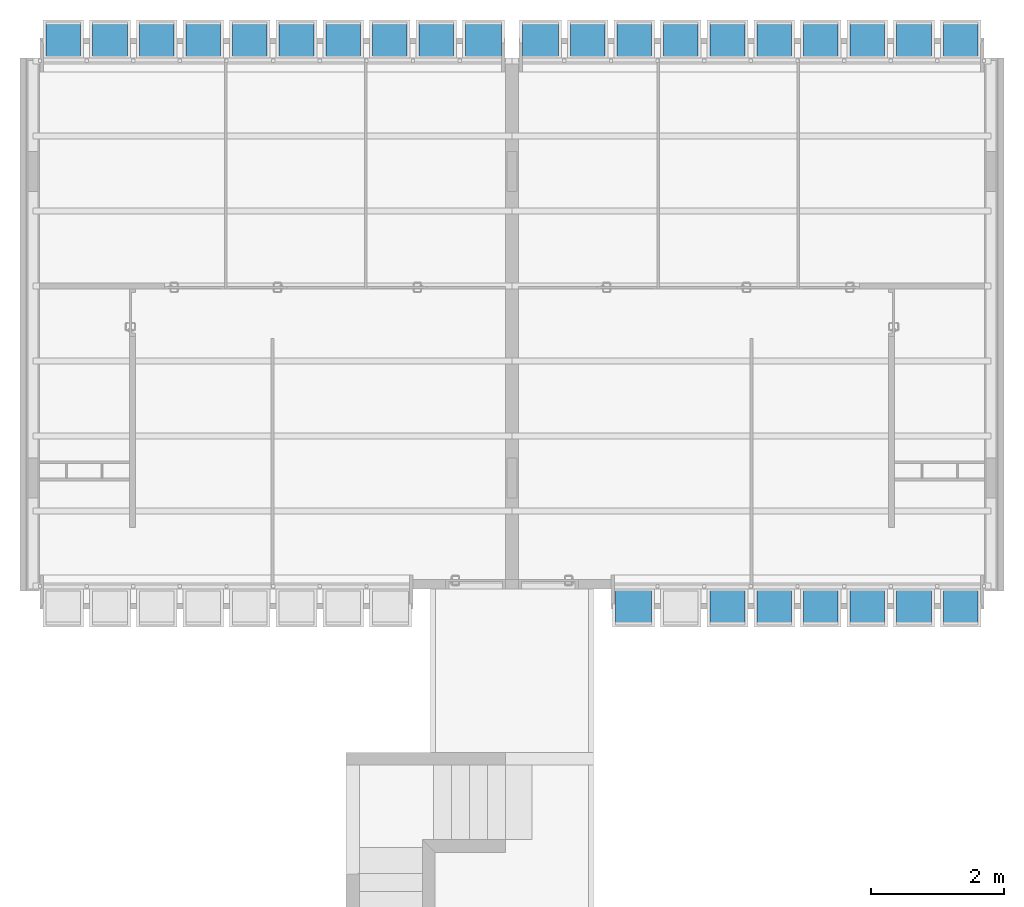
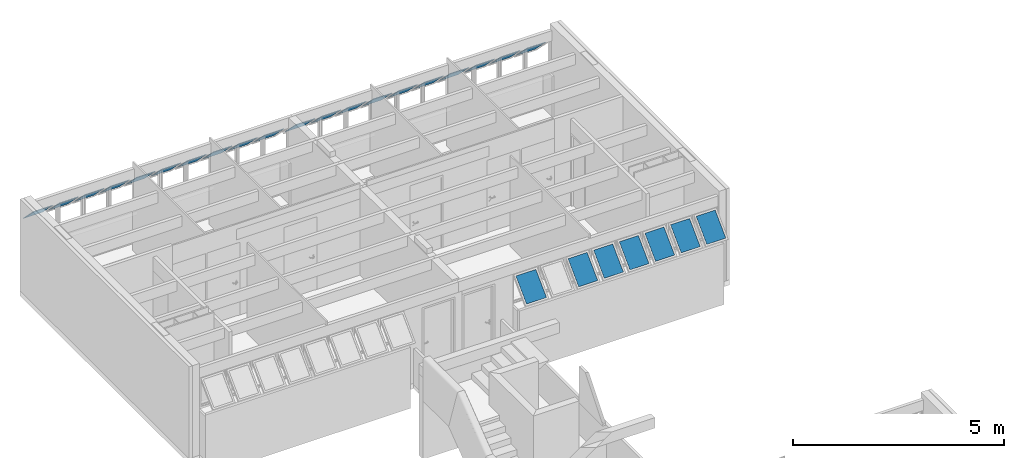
# One storey, part 37 of 38: 27 building element parts, 30 elements without a shape of their own.
"""IFC2X3 building model written with IfcOpenShell, lengths in millimetres."""

import ifcopenshell
import ifcopenshell.guid

model = None  # the IFC model being written
_history = None  # IfcOwnerHistory: only IFC2X3 demands one
_inside = {}  # id of a spatial element -> (the spatial element, [elements in it])
_under = {}  # id of a project, library or spatial element -> (it, [spatial elements below it])
_declared = {}  # id of a project -> (the project, [libraries it declares])
_typed = {}  # id of a type object -> (the type object, [elements of that type])
_made_of = {}  # id of a material, layer set ... -> (it, [elements and type objects made of it])


def new_model(schema):
    """Start an empty IFC model of exactly this schema.

    Asked for "IFC4X3", IfcOpenShell would pick the latest addendum, in which some entities
    have other attributes; the version numbers below select the first issue.
    IFC2X3 requires an IfcOwnerHistory on every rooted entity: one is made here for all.
    """
    global model, _history
    if schema == "IFC4X3":
        model = ifcopenshell.file(schema_version=(4, 3, 0, 0))
    else:
        model = ifcopenshell.file(schema=schema)
    _inside.clear()
    _under.clear()
    _declared.clear()
    _typed.clear()
    _made_of.clear()
    _history = None
    if model.schema == "IFC2X3":
        org = make("IfcOrganization", Name="unknown")
        user = make(
            "IfcPersonAndOrganization",
            ThePerson=make("IfcPerson", FamilyName="unknown"),
            TheOrganization=org,
        )
        app = make(
            "IfcApplication",
            ApplicationDeveloper=org,
            Version="unknown",
            ApplicationFullName="unknown",
            ApplicationIdentifier="unknown",
        )
        _history = make(
            "IfcOwnerHistory",
            OwningUser=user,
            OwningApplication=app,
            ChangeAction="ADDED",
            CreationDate=0,
        )
    return model


def make(cls, **values):
    """One entity of the class cls with the attributes given. An attribute that is None is left unset."""
    return model.create_entity(
        cls, **{name: value for name, value in values.items() if value is not None}
    )


def entity(cls, *values):
    """Any entity or typed value of the class cls, its attributes in the order of the schema. None: left unset."""
    e = model.create_entity(cls)
    for i, value in enumerate(values):
        if value is not None:
            e[i] = value
    return e


def rooted(cls, **values):
    """An entity with a GlobalId (a new one), such as an element, a storey or a relation."""
    return make(cls, GlobalId=ifcopenshell.guid.new(), OwnerHistory=_history, **values)


def si_unit(unit_type, name, prefix=None):
    """IfcSIUnit, for example si_unit("LENGTHUNIT", "METRE", prefix="MILLI")."""
    return make("IfcSIUnit", UnitType=unit_type, Prefix=prefix, Name=name)


def converted_unit(unit_type, name, factor, base, dimensions=None, offset=None):
    """IfcConversionBasedUnit, such as the inch: factor (a typed value) times the base unit."""
    return make(
        "IfcConversionBasedUnit"
        if offset is None
        else "IfcConversionBasedUnitWithOffset",
        ConversionOffset=offset,
        Dimensions=None
        if dimensions is None
        else entity("IfcDimensionalExponents", *dimensions),
        UnitType=unit_type,
        Name=name,
        ConversionFactor=make(
            "IfcMeasureWithUnit", ValueComponent=factor, UnitComponent=base
        ),
    )


def derived_unit(unit_type, elements):
    """IfcDerivedUnit: a product of units, each with its exponent."""
    return make(
        "IfcDerivedUnit",
        Elements=[
            make("IfcDerivedUnitElement", Unit=unit, Exponent=power)
            for unit, power in elements
        ],
        UnitType=unit_type,
    )


def money_unit(currency):
    """IfcMonetaryUnit."""
    return make("IfcMonetaryUnit", Currency=currency)


def assignment(units):
    """IfcUnitAssignment: the units of a project."""
    return None if units is None else make("IfcUnitAssignment", Units=units)


def point(xyz):
    """IfcCartesianPoint."""
    return None if xyz is None else make("IfcCartesianPoint", Coordinates=xyz)


def direction(xyz):
    """IfcDirection."""
    return None if xyz is None else make("IfcDirection", DirectionRatios=xyz)


def frame(location, z_axis=None, x_axis=None):
    """IfcAxis2Placement3D, a coordinate frame: its origin and axes. An axis left out is left unset."""
    return make(
        "IfcAxis2Placement3D",
        Location=point(location),
        Axis=direction(z_axis),
        RefDirection=direction(x_axis),
    )


def origin_with_axes():
    """The frame at (0, 0, 0) with the z axis (0, 0, 1) and the x axis (1, 0, 0) written out."""
    return frame((0.0, 0.0, 0.0), z_axis=(0.0, 0.0, 1.0), x_axis=(1.0, 0.0, 0.0))


def place(relative_to, where):
    """IfcLocalPlacement: puts the frame where relative to a parent placement (None: the world)."""
    return make(
        "IfcLocalPlacement", PlacementRelTo=relative_to, RelativePlacement=where
    )


def context(
    kind, dimensions, precision=None, world=None, true_north=None, identifier=None
):
    """IfcGeometricRepresentationContext, for example the 3D "Model" context."""
    return make(
        "IfcGeometricRepresentationContext",
        ContextIdentifier=identifier,
        ContextType=kind,
        CoordinateSpaceDimension=dimensions,
        Precision=precision,
        WorldCoordinateSystem=world,
        TrueNorth=true_north,
    )


def subcontext(parent, identifier, kind, view, scale=None):
    """IfcGeometricRepresentationSubContext, for example "Body" below "Model"."""
    return make(
        "IfcGeometricRepresentationSubContext",
        ContextIdentifier=identifier,
        ContextType=kind,
        ParentContext=parent,
        TargetScale=scale,
        TargetView=view,
    )


def project(units=None, contexts=None):
    """IfcProject with its units and contexts."""
    return rooted(
        "IfcProject",
        Name="project",
        RepresentationContexts=contexts,
        UnitsInContext=assignment(units),
    )


def spatial(cls, under=None, at=None, **own):
    """A site, building, storey or space (cls), placed at a placement, below another one or the project."""
    s = rooted(cls, ObjectPlacement=at, **own)
    if under is not None:
        _under.setdefault(under.id(), (under, []))[1].append(s)
    return s


def faces_of(points, faces, orient=None, outer=None):
    """IfcFace entities. A face is a list of loops; a loop is a list of indices into points, from 0.

    orient and outer hold one flag for each loop. By default every Orientation is true, the
    first loop of a face is its IfcFaceOuterBound and the others are IfcFaceBound.
    """
    made = []
    for i, loops in enumerate(faces):
        bounds = []
        for j, loop in enumerate(loops):
            is_outer = j == 0 if outer is None else outer[i][j]
            bounds.append(
                make(
                    "IfcFaceOuterBound" if is_outer else "IfcFaceBound",
                    Bound=make("IfcPolyLoop", Polygon=[points[k] for k in loop]),
                    Orientation=True if orient is None else orient[i][j],
                )
            )
        made.append(make("IfcFace", Bounds=bounds))
    return made


def faceted_brep(points, faces, orient=None, outer=None, voids=None):
    """IfcFacetedBrep: a solid bounded by flat faces; with voids (closed shells), ...WithVoids."""
    shared = [point(p) for p in points]
    hull = make("IfcClosedShell", CfsFaces=faces_of(shared, faces, orient, outer))
    if voids is None:
        return make("IfcFacetedBrep", Outer=hull)
    return make(
        "IfcFacetedBrepWithVoids",
        Outer=hull,
        Voids=[
            make(cls, CfsFaces=faces_of(shared, fs, o, b)) for cls, fs, o, b in voids
        ],
    )


def shape(context_of_items, identifier, shape_type, items):
    """IfcShapeRepresentation: the items that make up one representation, for example the "Body"."""
    return make(
        "IfcShapeRepresentation",
        ContextOfItems=context_of_items,
        RepresentationIdentifier=identifier,
        RepresentationType=shape_type,
        Items=items,
    )


def source(mapping_origin, context_of_items, identifier, shape_type, items):
    """IfcRepresentationMap: a shape defined once, which mapped items show again and again."""
    return make(
        "IfcRepresentationMap",
        MappingOrigin=mapping_origin,
        MappedRepresentation=shape(context_of_items, identifier, shape_type, items),
    )


def transform(
    local_origin,
    x_axis=None,
    y_axis=None,
    z_axis=None,
    scale=None,
    scale2=None,
    scale3=None,
    uniform=True,
):
    """IfcCartesianTransformationOperator3D, or its non-uniform kind. x_axis, y_axis, z_axis: its Axis1, 2, 3."""
    if uniform:
        return make(
            "IfcCartesianTransformationOperator3D",
            Axis1=direction(x_axis),
            Axis2=direction(y_axis),
            LocalOrigin=point(local_origin),
            Scale=scale,
            Axis3=direction(z_axis),
        )
    return make(
        "IfcCartesianTransformationOperator3DnonUniform",
        Axis1=direction(x_axis),
        Axis2=direction(y_axis),
        LocalOrigin=point(local_origin),
        Scale=scale,
        Axis3=direction(z_axis),
        Scale2=scale2,
        Scale3=scale3,
    )


def mapped(mapping_source, mapping_target):
    """IfcMappedItem: shows the shape of a source again, moved by a transform."""
    return make(
        "IfcMappedItem", MappingSource=mapping_source, MappingTarget=mapping_target
    )


def material(Name=None, Category=None):
    """IfcMaterial."""
    return make("IfcMaterial", Name=Name, Category=Category)


def made_of(thing, what):
    """Note that an element or type object is made of a material, layer set ...; save() writes the relation."""
    if what is not None:
        _made_of.setdefault(what.id(), (what, []))[1].append(thing)
    return thing


def type_object(cls, material=None, **own):
    """A type object (cls), such as IfcWallType, which elements share."""
    return made_of(rooted(cls, **own), material)


def element(
    cls,
    number,
    at=None,
    inside=None,
    cuts=None,
    type_object=None,
    material=None,
    context=None,
    identifier="Body",
    shape_type=None,
    held_by="IfcProductDefinitionShape",
    body=None,
    shapes=None,
    **own,
):
    """One element of the class cls, such as IfcWall. Its Tag is "e" and its number.

    at: its placement. inside: the storey or other place that contains it. cuts: it is an
    opening in that element (IfcRelVoidsElement). A single representation is given by context,
    identifier, shape_type and body (its items); several are given by shapes. held_by: the class
    of the entity that holds the representations. save() writes the other relations.
    """
    e = rooted(cls, Tag="e%d" % number, ObjectPlacement=at, **own)
    if body is not None:
        shapes = [shape(context, identifier, shape_type, body)]
    if shapes is not None:
        e.Representation = make(held_by, Representations=shapes)
    if inside is not None:
        _inside.setdefault(inside.id(), (inside, []))[1].append(e)
    if cuts is not None:
        rooted(
            "IfcRelVoidsElement", RelatingBuildingElement=cuts, RelatedOpeningElement=e
        )
    if type_object is not None:
        _typed.setdefault(type_object.id(), (type_object, []))[1].append(e)
    return made_of(e, material)


def aggregate(whole, parts):
    """IfcRelAggregates: a whole, such as a stair, and the parts it consists of."""
    return rooted("IfcRelAggregates", RelatingObject=whole, RelatedObjects=parts)


def save(model, path):
    """Write the relations noted so far, then the file.

    IfcRelAggregates (storeys below a building ...), IfcRelContainedInSpatialStructure (elements
    in a storey), IfcRelDefinesByType, IfcRelAssociatesMaterial and IfcRelDeclares: one each for
    every whole, place, type object, material and project.
    """
    for whole, parts in _under.values():
        aggregate(whole, parts)
    for where, things in _inside.values():
        rooted(
            "IfcRelContainedInSpatialStructure",
            RelatedElements=things,
            RelatingStructure=where,
        )
    for kind, things in _typed.values():
        rooted("IfcRelDefinesByType", RelatedObjects=things, RelatingType=kind)
    for what, things in _made_of.values():
        rooted("IfcRelAssociatesMaterial", RelatedObjects=things, RelatingMaterial=what)
    for by, libraries in _declared.values():
        rooted("IfcRelDeclares", RelatingContext=by, RelatedDefinitions=libraries)
    model.write(path)


model = new_model("IFC2X3")

# Units and contexts
model_context = context("Model", 3, precision=0.01, world=origin_with_axes(), true_north=direction((0.0, 1.0)))
body_context = subcontext(model_context, "Body", "Model", "MODEL_VIEW")
ifc_project = project(units=[si_unit("LENGTHUNIT", "METRE", prefix="MILLI"), si_unit("AREAUNIT", "SQUARE_METRE"), si_unit("VOLUMEUNIT", "CUBIC_METRE"), converted_unit("PLANEANGLEUNIT", "DEGREE", entity("IfcPlaneAngleMeasure", 0.0174532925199), si_unit("PLANEANGLEUNIT", "RADIAN"), dimensions=[0, 0, 0, 0, 0, 0, 0]), money_unit("USD"), converted_unit("TIMEUNIT", "Year", entity("IfcTimeMeasure", 31556926.0), si_unit("TIMEUNIT", "SECOND"), dimensions=[0, 0, 1, 0, 0, 0, 0]), si_unit("MASSUNIT", "GRAM", prefix="KILO"), si_unit("THERMODYNAMICTEMPERATUREUNIT", "DEGREE_CELSIUS"), si_unit("LUMINOUSINTENSITYUNIT", "LUMEN"), si_unit("ENERGYUNIT", "JOULE", prefix="MEGA"), derived_unit("THERMALCONDUCTANCEUNIT", [(si_unit("POWERUNIT", "WATT"), 1), (si_unit("LENGTHUNIT", "METRE"), -1), (si_unit("THERMODYNAMICTEMPERATUREUNIT", "KELVIN"), -1)]), derived_unit("SPECIFICHEATCAPACITYUNIT", [(si_unit("ENERGYUNIT", "JOULE"), 1), (si_unit("MASSUNIT", "GRAM", prefix="KILO"), -1), (si_unit("THERMODYNAMICTEMPERATUREUNIT", "KELVIN"), -1)]), derived_unit("MASSDENSITYUNIT", [(si_unit("MASSUNIT", "GRAM", prefix="KILO"), 1), (si_unit("VOLUMEUNIT", "CUBIC_METRE"), -1)])], contexts=[model_context])

# Site, building, storey
site_placement = place(None, origin_with_axes())
site = spatial("IfcSite", under=ifc_project, at=site_placement, Name="Local", CompositionType="ELEMENT")
building_placement = place(site_placement, origin_with_axes())
building = spatial("IfcBuilding", under=site, at=building_placement, Name="Construção", CompositionType="ELEMENT")
storey_placement = place(building_placement, frame((0.0, 0.0, 2650.0), z_axis=(0.0, 0.0, 1.0), x_axis=(1.0, 0.0, 0.0)))
storey = spatial("IfcBuildingStorey", under=building, at=storey_placement, Name="Segundo Pavimento", CompositionType="ELEMENT", Elevation=2650.0)

# Window, plates, building element parts
window_style = type_object("IfcWindowStyle", Name="Tipo de Parede Cortina", ConstructionType="NOTDEFINED", OperationType="NOTDEFINED", ParameterTakesPrecedence=False, Sizeable=False)
window_1_placement = place(storey_placement, frame((8520.0, 25844.9790225, 1355.02054151), z_axis=(0.0, 0.0, 1.0), x_axis=(1.0, 0.0, 0.0)))
window_1 = element("IfcWindow", 1, at=window_1_placement, inside=storey, type_object=window_style, Name="APTO8-JANELA-001")
plate_type_1 = type_object("IfcPlateType", Name="Painel Principal 690 x 845 x 20", PredefinedType="CURTAIN_PANEL")
plate_1_placement = place(window_1_placement, frame((0.0, 0.0, 422.499945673), z_axis=(0.0, 0.0, 1.0), x_axis=(1.0, 0.0, 0.0)))
plate_1 = element("IfcPlate", 2, at=plate_1_placement, type_object=plate_type_1, Name="APTO8-Painel-Prin-030")
ifc_material = material(Name="Vidro")
shared_shape_1 = source(origin_with_axes(), body_context, "Body", "Brep", [
    faceted_brep([(90.0000036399, 272.749572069, 537.551834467), (609.999997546, 272.749572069, 537.551834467), (609.999997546, 284.063280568, 548.865542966), (90.0000036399, 284.063280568, 548.865542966), (90.0000036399, 778.330843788, 31.9705627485), (609.999997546, 778.330843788, 31.9705627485), (609.999997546, 789.644552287, 43.2842712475), (90.0000036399, 789.644552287, 43.2842712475)], [[[0, 1, 2, 3]], [[0, 4, 5, 1]], [[1, 5, 6, 2]], [[3, 2, 6, 7]], [[4, 0, 3, 7]], [[5, 4, 7, 6]]]),
])
building_element_part_1_placement = place(plate_1_placement, origin_with_axes())
building_element_part_1 = element("IfcBuildingElementPart", 3, at=building_element_part_1_placement, material=ifc_material, Name="Vidro", context=body_context, shape_type="MappedRepresentation", body=[
    mapped(shared_shape_1, transform((350.0, 0.0, -422.499945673), x_axis=(-1.0, 0.0, 0.0), y_axis=(0.0, 0.0, 1.0), z_axis=(0.0, 1.0, 0.0))),
])
aggregate(plate_1, [building_element_part_1])
plate_2_placement = place(window_1_placement, frame((700.0, 0.0, 422.499945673), z_axis=(0.0, 0.0, 1.0), x_axis=(1.0, 0.0, 0.0)))
plate_2 = element("IfcPlate", 4, at=plate_2_placement, type_object=plate_type_1, Name="APTO8-Painel-Prin-020")
building_element_part_2_placement = place(plate_2_placement, origin_with_axes())
building_element_part_2 = element("IfcBuildingElementPart", 5, at=building_element_part_2_placement, material=ifc_material, Name="Vidro", context=body_context, shape_type="MappedRepresentation", body=[
    mapped(shared_shape_1, transform((350.0, 0.0, -422.499945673), x_axis=(-1.0, 0.0, 0.0), y_axis=(0.0, 0.0, 1.0), z_axis=(0.0, 1.0, 0.0))),
])
aggregate(plate_2, [building_element_part_2])
plate_3_placement = place(window_1_placement, frame((1400.0, 0.0, 422.499945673), z_axis=(0.0, 0.0, 1.0), x_axis=(1.0, 0.0, 0.0)))
plate_3 = element("IfcPlate", 6, at=plate_3_placement, type_object=plate_type_1, Name="APTO8-Painel-Prin-029")
building_element_part_3_placement = place(plate_3_placement, origin_with_axes())
building_element_part_3 = element("IfcBuildingElementPart", 7, at=building_element_part_3_placement, material=ifc_material, Name="Vidro", context=body_context, shape_type="MappedRepresentation", body=[
    mapped(shared_shape_1, transform((350.0, 0.0, -422.499945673), x_axis=(-1.0, 0.0, 0.0), y_axis=(0.0, 0.0, 1.0), z_axis=(0.0, 1.0, 0.0))),
])
aggregate(plate_3, [building_element_part_3])
plate_4_placement = place(window_1_placement, frame((3500.0, 0.0, 422.499945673), z_axis=(0.0, 0.0, 1.0), x_axis=(1.0, 0.0, 0.0)))
plate_4 = element("IfcPlate", 8, at=plate_4_placement, type_object=plate_type_1, Name="APTO8-Painel-Prin-013")
building_element_part_4_placement = place(plate_4_placement, origin_with_axes())
building_element_part_4 = element("IfcBuildingElementPart", 9, at=building_element_part_4_placement, material=ifc_material, Name="Vidro", context=body_context, shape_type="MappedRepresentation", body=[
    mapped(shared_shape_1, transform((350.0, 0.0, -422.499945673), x_axis=(-1.0, 0.0, 0.0), y_axis=(0.0, 0.0, 1.0), z_axis=(0.0, 1.0, 0.0))),
])
aggregate(plate_4, [building_element_part_4])
plate_type_2 = type_object("IfcPlateType", Name="Painel Principal 685 x 845 x 20", PredefinedType="CURTAIN_PANEL")
plate_5_placement = place(window_1_placement, frame((-695.000037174, 0.0, 422.499953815), z_axis=(0.0, 0.0, 1.0), x_axis=(1.0, 0.0, 0.0)))
plate_5 = element("IfcPlate", 10, at=plate_5_placement, type_object=plate_type_2, Name="APTO8-Painel-Prin-031")
shared_shape_2 = source(origin_with_axes(), body_context, "Body", "Brep", [
    faceted_brep([(90.0000046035, 272.749581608, 537.551857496), (625.000079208, 272.749581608, 537.551857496), (625.000079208, 284.063290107, 548.865565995), (90.0000046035, 284.063290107, 548.865565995), (90.0000046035, 778.330876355, 31.9705627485), (625.000079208, 778.330876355, 31.9705627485), (625.000079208, 789.644584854, 43.2842712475), (90.0000046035, 789.644584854, 43.2842712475)], [[[0, 1, 2, 3]], [[0, 4, 5, 1]], [[1, 5, 6, 2]], [[3, 2, 6, 7]], [[4, 0, 3, 7]], [[5, 4, 7, 6]]]),
])
building_element_part_5_placement = place(plate_5_placement, origin_with_axes())
building_element_part_5 = element("IfcBuildingElementPart", 11, at=building_element_part_5_placement, material=ifc_material, Name="Vidro", context=body_context, shape_type="MappedRepresentation", body=[
    mapped(shared_shape_2, transform((345.000037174, 0.0, -422.499953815), x_axis=(-1.0, 0.0, 0.0), y_axis=(0.0, 0.0, 1.0), z_axis=(0.0, 1.0, 0.0))),
])
aggregate(plate_5, [building_element_part_5])
plate_6_placement = place(window_1_placement, frame((5600.0, 0.0, 422.499945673), z_axis=(0.0, 0.0, 1.0), x_axis=(1.0, 0.0, 0.0)))
plate_6 = element("IfcPlate", 12, at=plate_6_placement, type_object=plate_type_1, Name="APTO8-Painel-Prin-013")
shared_shape_3 = source(origin_with_axes(), body_context, "Body", "Brep", [
    faceted_brep([(90.0000036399, 272.749572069, 537.551834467), (609.999997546, 272.749572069, 537.551834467), (609.999997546, 284.063280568, 548.865542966), (90.0000036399, 284.063280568, 548.865542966), (90.0000036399, 778.330843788, 31.9705627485), (609.999997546, 778.330843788, 31.9705627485), (609.999997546, 789.644552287, 43.2842712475), (90.0000036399, 789.644552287, 43.2842712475)], [[[0, 1, 2, 3]], [[0, 4, 5, 1]], [[1, 5, 6, 2]], [[3, 2, 6, 7]], [[4, 0, 3, 7]], [[5, 4, 7, 6]]]),
])
building_element_part_6_placement = place(plate_6_placement, origin_with_axes())
building_element_part_6 = element("IfcBuildingElementPart", 13, at=building_element_part_6_placement, material=ifc_material, Name="Vidro", context=body_context, shape_type="MappedRepresentation", body=[
    mapped(shared_shape_3, transform((350.0, 0.0, -422.499945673), x_axis=(-1.0, 0.0, 0.0), y_axis=(0.0, 0.0, 1.0), z_axis=(0.0, 1.0, 0.0))),
])
aggregate(plate_6, [building_element_part_6])
plate_7_placement = place(window_1_placement, frame((4900.0, 0.0, 422.499945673), z_axis=(0.0, 0.0, 1.0), x_axis=(1.0, 0.0, 0.0)))
plate_7 = element("IfcPlate", 14, at=plate_7_placement, type_object=plate_type_1, Name="APTO8-Painel-Prin-013")
building_element_part_7_placement = place(plate_7_placement, origin_with_axes())
building_element_part_7 = element("IfcBuildingElementPart", 15, at=building_element_part_7_placement, material=ifc_material, Name="Vidro", context=body_context, shape_type="MappedRepresentation", body=[
    mapped(shared_shape_3, transform((350.0, 0.0, -422.499945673), x_axis=(-1.0, 0.0, 0.0), y_axis=(0.0, 0.0, 1.0), z_axis=(0.0, 1.0, 0.0))),
])
aggregate(plate_7, [building_element_part_7])
plate_8_placement = place(window_1_placement, frame((2100.0, 0.0, 422.499945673), z_axis=(0.0, 0.0, 1.0), x_axis=(1.0, 0.0, 0.0)))
plate_8 = element("IfcPlate", 16, at=plate_8_placement, type_object=plate_type_1, Name="APTO8-Painel-Prin-025")
building_element_part_8_placement = place(plate_8_placement, origin_with_axes())
building_element_part_8 = element("IfcBuildingElementPart", 17, at=building_element_part_8_placement, material=ifc_material, Name="Vidro", context=body_context, shape_type="MappedRepresentation", body=[
    mapped(shared_shape_3, transform((350.0, 0.0, -422.499945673), x_axis=(-1.0, 0.0, 0.0), y_axis=(0.0, 0.0, 1.0), z_axis=(0.0, 1.0, 0.0))),
])
aggregate(plate_8, [building_element_part_8])
plate_9_placement = place(window_1_placement, frame((2800.0, 0.0, 422.499945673), z_axis=(0.0, 0.0, 1.0), x_axis=(1.0, 0.0, 0.0)))
plate_9 = element("IfcPlate", 18, at=plate_9_placement, type_object=plate_type_1, Name="APTO8-Painel-Prin-013")
shared_shape_4 = source(origin_with_axes(), body_context, "Body", "Brep", [
    faceted_brep([(90.0000036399, 272.749572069, 537.551834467), (609.999997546, 272.749572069, 537.551834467), (609.999997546, 284.063280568, 548.865542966), (90.0000036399, 284.063280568, 548.865542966), (90.0000036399, 778.330843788, 31.9705627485), (609.999997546, 778.330843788, 31.9705627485), (609.999997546, 789.644552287, 43.2842712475), (90.0000036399, 789.644552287, 43.2842712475)], [[[0, 1, 2, 3]], [[0, 4, 5, 1]], [[1, 5, 6, 2]], [[3, 2, 6, 7]], [[4, 0, 3, 7]], [[5, 4, 7, 6]]]),
])
building_element_part_9_placement = place(plate_9_placement, origin_with_axes())
building_element_part_9 = element("IfcBuildingElementPart", 19, at=building_element_part_9_placement, material=ifc_material, Name="Vidro", context=body_context, shape_type="MappedRepresentation", body=[
    mapped(shared_shape_4, transform((350.0, 0.0, -422.499945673), x_axis=(-1.0, 0.0, 0.0), y_axis=(0.0, 0.0, 1.0), z_axis=(0.0, 1.0, 0.0))),
])
aggregate(plate_9, [building_element_part_9])
plate_10_placement = place(window_1_placement, frame((4200.0, 0.0, 422.499945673), z_axis=(0.0, 0.0, 1.0), x_axis=(1.0, 0.0, 0.0)))
plate_10 = element("IfcPlate", 20, at=plate_10_placement, type_object=plate_type_1, Name="APTO8-Painel-Prin-013")
aggregate(window_1, [plate_1, plate_5, plate_6, plate_7, plate_9, plate_8, plate_2, plate_10, plate_3, plate_4])
building_element_part_10_placement = place(plate_10_placement, origin_with_axes())
building_element_part_10 = element("IfcBuildingElementPart", 21, at=building_element_part_10_placement, material=ifc_material, Name="Vidro", context=body_context, shape_type="MappedRepresentation", body=[
    mapped(shared_shape_4, transform((350.0, 0.0, -422.499945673), x_axis=(-1.0, 0.0, 0.0), y_axis=(0.0, 0.0, 1.0), z_axis=(0.0, 1.0, 0.0))),
])
aggregate(plate_10, [building_element_part_10])

window_2_placement = place(storey_placement, frame((6250.0, 25844.9790225, 1355.02054151), z_axis=(0.0, 0.0, 1.0), x_axis=(1.0, 0.0, 0.0)))
window_2 = element("IfcWindow", 22, at=window_2_placement, inside=storey, type_object=window_style, Name="APTO7-JANELA-001")
plate_11_placement = place(window_2_placement, frame((0.0, 0.0, 422.499945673), z_axis=(0.0, 0.0, 1.0), x_axis=(-1.0, 0.0, 0.0)))
plate_11 = element("IfcPlate", 23, at=plate_11_placement, type_object=plate_type_1, Name="APTO7-Painel-Prin-030")
shared_shape_5 = source(origin_with_axes(), body_context, "Body", "Brep", [
    faceted_brep([(-90.0000036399, 272.749572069, 537.551834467), (-90.0000036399, 284.063280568, 548.865542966), (-609.999997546, 284.063280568, 548.865542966), (-609.999997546, 272.749572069, 537.551834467), (-90.0000036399, 778.330843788, 31.9705627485), (-90.0000036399, 789.644552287, 43.2842712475), (-609.999997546, 789.644552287, 43.2842712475), (-609.999997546, 778.330843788, 31.9705627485)], [[[0, 1, 2, 3]], [[4, 5, 1, 0]], [[1, 5, 6, 2]], [[3, 2, 6, 7]], [[0, 3, 7, 4]], [[7, 6, 5, 4]]]),
])
building_element_part_11_placement = place(plate_11_placement, origin_with_axes())
building_element_part_11 = element("IfcBuildingElementPart", 24, at=building_element_part_11_placement, material=ifc_material, Name="Vidro", context=body_context, shape_type="MappedRepresentation", body=[
    mapped(shared_shape_5, transform((350.0, 0.0, -422.499945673), x_axis=(1.0, 0.0, 0.0), y_axis=(0.0, 0.0, 1.0), z_axis=(0.0, -1.0, 0.0))),
])
aggregate(plate_11, [building_element_part_11])
plate_12_placement = place(window_2_placement, frame((-700.0, 0.0, 422.499945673), z_axis=(0.0, 0.0, 1.0), x_axis=(-1.0, 0.0, 0.0)))
plate_12 = element("IfcPlate", 25, at=plate_12_placement, type_object=plate_type_1, Name="APTO7-Painel-Prin-020")
building_element_part_12_placement = place(plate_12_placement, origin_with_axes())
building_element_part_12 = element("IfcBuildingElementPart", 26, at=building_element_part_12_placement, material=ifc_material, Name="Vidro", context=body_context, shape_type="MappedRepresentation", body=[
    mapped(shared_shape_5, transform((350.0, 0.0, -422.499945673), x_axis=(1.0, 0.0, 0.0), y_axis=(0.0, 0.0, 1.0), z_axis=(0.0, -1.0, 0.0))),
])
aggregate(plate_12, [building_element_part_12])
plate_13_placement = place(window_2_placement, frame((-1400.0, 0.0, 422.499945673), z_axis=(0.0, 0.0, 1.0), x_axis=(-1.0, 0.0, 0.0)))
plate_13 = element("IfcPlate", 27, at=plate_13_placement, type_object=plate_type_1, Name="APTO7-Painel-Prin-029")
building_element_part_13_placement = place(plate_13_placement, origin_with_axes())
building_element_part_13 = element("IfcBuildingElementPart", 28, at=building_element_part_13_placement, material=ifc_material, Name="Vidro", context=body_context, shape_type="MappedRepresentation", body=[
    mapped(shared_shape_5, transform((350.0, 0.0, -422.499945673), x_axis=(1.0, 0.0, 0.0), y_axis=(0.0, 0.0, 1.0), z_axis=(0.0, -1.0, 0.0))),
])
aggregate(plate_13, [building_element_part_13])
plate_14_placement = place(window_2_placement, frame((-3500.0, 0.0, 422.499945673), z_axis=(0.0, 0.0, 1.0), x_axis=(-1.0, 0.0, 0.0)))
plate_14 = element("IfcPlate", 29, at=plate_14_placement, type_object=plate_type_1, Name="APTO7-Painel-Prin-013")
building_element_part_14_placement = place(plate_14_placement, origin_with_axes())
building_element_part_14 = element("IfcBuildingElementPart", 30, at=building_element_part_14_placement, material=ifc_material, Name="Vidro", context=body_context, shape_type="MappedRepresentation", body=[
    mapped(shared_shape_5, transform((350.0, 0.0, -422.499945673), x_axis=(1.0, 0.0, 0.0), y_axis=(0.0, 0.0, 1.0), z_axis=(0.0, -1.0, 0.0))),
])
aggregate(plate_14, [building_element_part_14])

# Window, plate, building element part
window_3_placement = place(storey_placement, frame((12020.0, 17910.0, 1355.00007107), z_axis=(0.0, 0.0, 1.0), x_axis=(1.0, 0.0, 0.0)))
window_3 = element("IfcWindow", 31, at=window_3_placement, inside=storey, type_object=window_style, Name="APTO8-JANELA-000")
plate_15_placement = place(window_3_placement, frame((0.0, 0.0, 422.499964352), z_axis=(0.0, 0.0, 1.0), x_axis=(1.0, 0.0, 0.0)))
plate_15 = element("IfcPlate", 32, at=plate_15_placement, type_object=plate_type_1, Name="APTO8-Painel-Prin-013")
building_element_part_15_placement = place(plate_15_placement, origin_with_axes())
building_element_part_15 = element("IfcBuildingElementPart", 33, at=building_element_part_15_placement, material=ifc_material, Name="Vidro", context=body_context, shape_type="MappedRepresentation", body=[
    mapped(shared_shape_5, transform((350.0, 0.0, -422.499964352), x_axis=(1.0, 0.0, 0.0), y_axis=(0.0, 0.0, 1.0), z_axis=(0.0, -1.0, 0.0))),
])
aggregate(plate_15, [building_element_part_15])

# Plate, building element part
plate_16_placement = place(window_2_placement, frame((-5600.0, 0.0, 422.499945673), z_axis=(0.0, 0.0, 1.0), x_axis=(-1.0, 0.0, 0.0)))
plate_16 = element("IfcPlate", 34, at=plate_16_placement, type_object=plate_type_1, Name="APTO7-Painel-Prin-013")
shared_shape_6 = source(origin_with_axes(), body_context, "Body", "Brep", [
    faceted_brep([(-90.0000036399, 272.749572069, 537.551834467), (-90.0000036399, 284.063280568, 548.865542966), (-609.999997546, 284.063280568, 548.865542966), (-609.999997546, 272.749572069, 537.551834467), (-90.0000036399, 778.330843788, 31.9705627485), (-90.0000036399, 789.644552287, 43.2842712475), (-609.999997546, 789.644552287, 43.2842712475), (-609.999997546, 778.330843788, 31.9705627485)], [[[0, 1, 2, 3]], [[4, 5, 1, 0]], [[1, 5, 6, 2]], [[3, 2, 6, 7]], [[0, 3, 7, 4]], [[7, 6, 5, 4]]]),
])
building_element_part_16_placement = place(plate_16_placement, origin_with_axes())
building_element_part_16 = element("IfcBuildingElementPart", 35, at=building_element_part_16_placement, material=ifc_material, Name="Vidro", context=body_context, shape_type="MappedRepresentation", body=[
    mapped(shared_shape_6, transform((350.0, 0.0, -422.499945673), x_axis=(1.0, 0.0, 0.0), y_axis=(0.0, 0.0, 1.0), z_axis=(0.0, -1.0, 0.0))),
])
aggregate(plate_16, [building_element_part_16])

plate_17_placement = place(window_2_placement, frame((-4900.0, 0.0, 422.499945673), z_axis=(0.0, 0.0, 1.0), x_axis=(-1.0, 0.0, 0.0)))
plate_17 = element("IfcPlate", 36, at=plate_17_placement, type_object=plate_type_1, Name="APTO7-Painel-Prin-013")
building_element_part_17_placement = place(plate_17_placement, origin_with_axes())
building_element_part_17 = element("IfcBuildingElementPart", 37, at=building_element_part_17_placement, material=ifc_material, Name="Vidro", context=body_context, shape_type="MappedRepresentation", body=[
    mapped(shared_shape_6, transform((350.0, 0.0, -422.499945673), x_axis=(1.0, 0.0, 0.0), y_axis=(0.0, 0.0, 1.0), z_axis=(0.0, -1.0, 0.0))),
])
aggregate(plate_17, [building_element_part_17])

plate_18_placement = place(window_2_placement, frame((-2100.0, 0.0, 422.499945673), z_axis=(0.0, 0.0, 1.0), x_axis=(-1.0, 0.0, 0.0)))
plate_18 = element("IfcPlate", 38, at=plate_18_placement, type_object=plate_type_1, Name="APTO7-Painel-Prin-025")
building_element_part_18_placement = place(plate_18_placement, origin_with_axes())
building_element_part_18 = element("IfcBuildingElementPart", 39, at=building_element_part_18_placement, material=ifc_material, Name="Vidro", context=body_context, shape_type="MappedRepresentation", body=[
    mapped(shared_shape_6, transform((350.0, 0.0, -422.499945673), x_axis=(1.0, 0.0, 0.0), y_axis=(0.0, 0.0, 1.0), z_axis=(0.0, -1.0, 0.0))),
])
aggregate(plate_18, [building_element_part_18])

plate_19_placement = place(window_3_placement, frame((2100.0, 0.0, 422.499998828), z_axis=(0.0, 0.0, 1.0), x_axis=(1.0, 0.0, 0.0)))
plate_19 = element("IfcPlate", 40, at=plate_19_placement, type_object=plate_type_1, Name="APTO8-Painel-Prin-013")
building_element_part_19_placement = place(plate_19_placement, origin_with_axes())
building_element_part_19 = element("IfcBuildingElementPart", 41, at=building_element_part_19_placement, material=ifc_material, Name="Vidro", context=body_context, shape_type="MappedRepresentation", body=[
    mapped(shared_shape_6, transform((350.0, 0.0, -422.499998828), x_axis=(1.0, 0.0, 0.0), y_axis=(0.0, 0.0, 1.0), z_axis=(0.0, -1.0, 0.0))),
])
aggregate(plate_19, [building_element_part_19])

plate_20_placement = place(window_3_placement, frame((1400.0, 0.0, 422.499964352), z_axis=(0.0, 0.0, 1.0), x_axis=(1.0, 0.0, 0.0)))
plate_20 = element("IfcPlate", 42, at=plate_20_placement, type_object=plate_type_1, Name="APTO8-Painel-Prin-013")
building_element_part_20_placement = place(plate_20_placement, origin_with_axes())
building_element_part_20 = element("IfcBuildingElementPart", 43, at=building_element_part_20_placement, material=ifc_material, Name="Vidro", context=body_context, shape_type="MappedRepresentation", body=[
    mapped(shared_shape_6, transform((350.0, 0.0, -422.499964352), x_axis=(1.0, 0.0, 0.0), y_axis=(0.0, 0.0, 1.0), z_axis=(0.0, -1.0, 0.0))),
])
aggregate(plate_20, [building_element_part_20])

plate_21_placement = place(window_3_placement, frame((-1400.0, 0.0, 422.499964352), z_axis=(0.0, 0.0, 1.0), x_axis=(1.0, 0.0, 0.0)))
plate_21 = element("IfcPlate", 44, at=plate_21_placement, type_object=plate_type_1, Name="APTO8-Painel-Prin-025")
building_element_part_21_placement = place(plate_21_placement, origin_with_axes())
building_element_part_21 = element("IfcBuildingElementPart", 45, at=building_element_part_21_placement, material=ifc_material, Name="Vidro", context=body_context, shape_type="MappedRepresentation", body=[
    mapped(shared_shape_6, transform((350.0, 0.0, -422.499964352), x_axis=(1.0, 0.0, 0.0), y_axis=(0.0, 0.0, 1.0), z_axis=(0.0, -1.0, 0.0))),
])
aggregate(plate_21, [building_element_part_21])

plate_22_placement = place(window_2_placement, frame((-2800.0, 0.0, 422.499945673), z_axis=(0.0, 0.0, 1.0), x_axis=(-1.0, 0.0, 0.0)))
plate_22 = element("IfcPlate", 46, at=plate_22_placement, type_object=plate_type_1, Name="APTO7-Painel-Prin-013")
shared_shape_7 = source(origin_with_axes(), body_context, "Body", "Brep", [
    faceted_brep([(-90.0000036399, 272.749572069, 537.551834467), (-90.0000036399, 284.063280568, 548.865542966), (-609.999997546, 284.063280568, 548.865542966), (-609.999997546, 272.749572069, 537.551834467), (-90.0000036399, 778.330843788, 31.9705627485), (-90.0000036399, 789.644552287, 43.2842712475), (-609.999997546, 789.644552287, 43.2842712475), (-609.999997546, 778.330843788, 31.9705627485)], [[[0, 1, 2, 3]], [[4, 5, 1, 0]], [[1, 5, 6, 2]], [[3, 2, 6, 7]], [[0, 3, 7, 4]], [[7, 6, 5, 4]]]),
])
building_element_part_22_placement = place(plate_22_placement, origin_with_axes())
building_element_part_22 = element("IfcBuildingElementPart", 47, at=building_element_part_22_placement, material=ifc_material, Name="Vidro", context=body_context, shape_type="MappedRepresentation", body=[
    mapped(shared_shape_7, transform((350.0, 0.0, -422.499945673), x_axis=(1.0, 0.0, 0.0), y_axis=(0.0, 0.0, 1.0), z_axis=(0.0, -1.0, 0.0))),
])
aggregate(plate_22, [building_element_part_22])

plate_23_placement = place(window_2_placement, frame((-4200.0, 0.0, 422.499945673), z_axis=(0.0, 0.0, 1.0), x_axis=(-1.0, 0.0, 0.0)))
plate_23 = element("IfcPlate", 48, at=plate_23_placement, type_object=plate_type_1, Name="APTO7-Painel-Prin-013")
building_element_part_23_placement = place(plate_23_placement, origin_with_axes())
building_element_part_23 = element("IfcBuildingElementPart", 49, at=building_element_part_23_placement, material=ifc_material, Name="Vidro", context=body_context, shape_type="MappedRepresentation", body=[
    mapped(shared_shape_7, transform((350.0, 0.0, -422.499945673), x_axis=(1.0, 0.0, 0.0), y_axis=(0.0, 0.0, 1.0), z_axis=(0.0, -1.0, 0.0))),
])
aggregate(plate_23, [building_element_part_23])

plate_24_placement = place(window_3_placement, frame((-700.0, 0.0, 422.499964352), z_axis=(0.0, 0.0, 1.0), x_axis=(1.0, 0.0, 0.0)))
plate_24 = element("IfcPlate", 50, at=plate_24_placement, type_object=plate_type_1, Name="APTO8-Painel-Prin-013")
building_element_part_24_placement = place(plate_24_placement, origin_with_axes())
building_element_part_24 = element("IfcBuildingElementPart", 51, at=building_element_part_24_placement, material=ifc_material, Name="Vidro", context=body_context, shape_type="MappedRepresentation", body=[
    mapped(shared_shape_7, transform((350.0, 0.0, -422.499964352), x_axis=(1.0, 0.0, 0.0), y_axis=(0.0, 0.0, 1.0), z_axis=(0.0, -1.0, 0.0))),
])
aggregate(plate_24, [building_element_part_24])

plate_25_placement = place(window_3_placement, frame((700.0, 0.0, 422.499964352), z_axis=(0.0, 0.0, 1.0), x_axis=(1.0, 0.0, 0.0)))
plate_25 = element("IfcPlate", 52, at=plate_25_placement, type_object=plate_type_1, Name="APTO8-Painel-Prin-013")
building_element_part_25_placement = place(plate_25_placement, origin_with_axes())
building_element_part_25 = element("IfcBuildingElementPart", 53, at=building_element_part_25_placement, material=ifc_material, Name="Vidro", context=body_context, shape_type="MappedRepresentation", body=[
    mapped(shared_shape_7, transform((350.0, 0.0, -422.499964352), x_axis=(1.0, 0.0, 0.0), y_axis=(0.0, 0.0, 1.0), z_axis=(0.0, -1.0, 0.0))),
])
aggregate(plate_25, [building_element_part_25])

# Plate
plate_type_3 = type_object("IfcPlateType", Name="Painel Principal 695 x 845 x 20", PredefinedType="CURTAIN_PANEL")
plate_26_placement = place(window_3_placement, frame((-2800.0, 0.0, 422.499986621), z_axis=(0.0, 0.0, 1.0), x_axis=(1.0, 0.0, 0.0)))
plate_26 = element("IfcPlate", 54, at=plate_26_placement, type_object=plate_type_3, Name="APTO8-Painel-Prin-020")

aggregate(window_3, [plate_15, plate_19, plate_20, plate_24, plate_21, plate_26, plate_25])

# Building element part
shared_shape_8 = source(origin_with_axes(), body_context, "Body", "Brep", [
    faceted_brep([(-90.0000062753, 272.749598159, 537.551897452), (-90.0000062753, 284.063306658, 548.865605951), (-634.999999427, 284.063306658, 548.865605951), (-634.999999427, 272.749598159, 537.551897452), (-90.0000062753, 778.330932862, 31.9705627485), (-90.0000062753, 789.644641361, 43.2842712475), (-634.999999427, 789.644641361, 43.2842712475), (-634.999999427, 778.330932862, 31.9705627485)], [[[0, 1, 2, 3]], [[4, 5, 1, 0]], [[1, 5, 6, 2]], [[3, 2, 6, 7]], [[0, 3, 7, 4]], [[7, 6, 5, 4]]]),
])
building_element_part_26_placement = place(plate_26_placement, origin_with_axes())
building_element_part_26 = element("IfcBuildingElementPart", 55, at=building_element_part_26_placement, material=ifc_material, Name="Vidro", context=body_context, shape_type="MappedRepresentation", body=[
    mapped(shared_shape_8, transform((350.0, 0.0, -422.499986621), x_axis=(1.0, 0.0, 0.0), y_axis=(0.0, 0.0, 1.0), z_axis=(0.0, -1.0, 0.0))),
])

aggregate(plate_26, [building_element_part_26])

# Plate
plate_27_placement = place(window_2_placement, frame((695.000037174, 0.0, 422.499953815), z_axis=(0.0, 0.0, 1.0), x_axis=(-1.0, 0.0, 0.0)))
plate_27 = element("IfcPlate", 56, at=plate_27_placement, type_object=plate_type_2, Name="APTO7-Painel-Prin-031")

aggregate(window_2, [plate_11, plate_27, plate_16, plate_17, plate_22, plate_18, plate_12, plate_23, plate_13, plate_14])

# Building element part
shared_shape_9 = source(origin_with_axes(), body_context, "Body", "Brep", [
    faceted_brep([(-90.0000046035, 272.749581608, 537.551857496), (-90.0000046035, 284.063290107, 548.865565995), (-625.000079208, 284.063290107, 548.865565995), (-625.000079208, 272.749581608, 537.551857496), (-90.0000046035, 778.330876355, 31.9705627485), (-90.0000046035, 789.644584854, 43.2842712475), (-625.000079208, 789.644584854, 43.2842712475), (-625.000079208, 778.330876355, 31.9705627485)], [[[0, 1, 2, 3]], [[4, 5, 1, 0]], [[1, 5, 6, 2]], [[3, 2, 6, 7]], [[0, 3, 7, 4]], [[7, 6, 5, 4]]]),
])
building_element_part_27_placement = place(plate_27_placement, origin_with_axes())
building_element_part_27 = element("IfcBuildingElementPart", 57, at=building_element_part_27_placement, material=ifc_material, Name="Vidro", context=body_context, shape_type="MappedRepresentation", body=[
    mapped(shared_shape_9, transform((345.000037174, 0.0, -422.499953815), x_axis=(1.0, 0.0, 0.0), y_axis=(0.0, 0.0, 1.0), z_axis=(0.0, -1.0, 0.0))),
])

aggregate(plate_27, [building_element_part_27])

save(model, "model.ifc")
